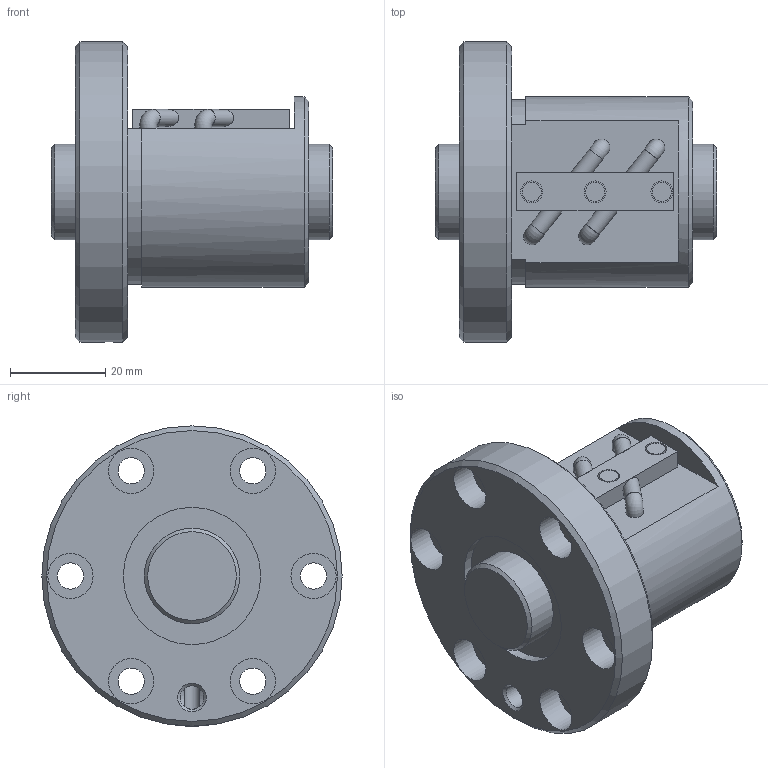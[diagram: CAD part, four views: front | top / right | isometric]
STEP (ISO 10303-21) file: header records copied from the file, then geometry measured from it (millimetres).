
FILE_DESCRIPTION(/* description */ ('STEP AP203'),/* implementation_level */ '2;1');
FILE_NAME(/* name */ 'BIF2004V-5RRG0+59LC0_000',/* time_stamp */ '2024-07-15T08:16:46+02:00',/* author */ ('License CC BY-ND 4.0'),/* organization */ ('CADENAS'),/* preprocessor_version */ 'ST-DEVELOPER v19.3',/* originating_system */ 'PARTsolutions',/* authorisation */ ' ');
FILE_SCHEMA (('CONFIG_CONTROL_DESIGN','TECHNICAL_DATA_PACKAGING'));
Length unit declared in the file: millimetre
Products named in the file (3): BIF2004V-5RRG0+59LC0_000; BIF2004V-5RR000 Shaft; BIF2004V-5RR Nut
Assembly tree (2 placements, depth 2):
  BIF2004V-5RRG0+59LC0_000
    BIF2004V-5RR000 Shaft
    BIF2004V-5RR Nut
Bounding box: 59 x 63 x 63 mm (x, y, z)
Volume: 76518 mm3; surface area: 22261.6 mm2
Topology: 2 solids, 2 shells, 89 faces, 201 edges, 127 vertices
Faces by surface type: plane 41, cylinder 36, cone 8, torus 4
Full cylindrical faces by diameter (mm): 3.35 x2, 3.6 x4, 4 x3, 4.6 x3, 4.917 x1, 5.5 x6, 9.5 x6, 20 x2, 28.8 x2, 40 x1, 63 x1
Entity records: 2365 total; most frequent: CARTESIAN_POINT 432, DIRECTION 422, ORIENTED_EDGE 292, AXIS2_PLACEMENT_3D 194, EDGE_LOOP 166, FACE_BOUND 166, EDGE_CURVE 146, VERTEX_POINT 114
